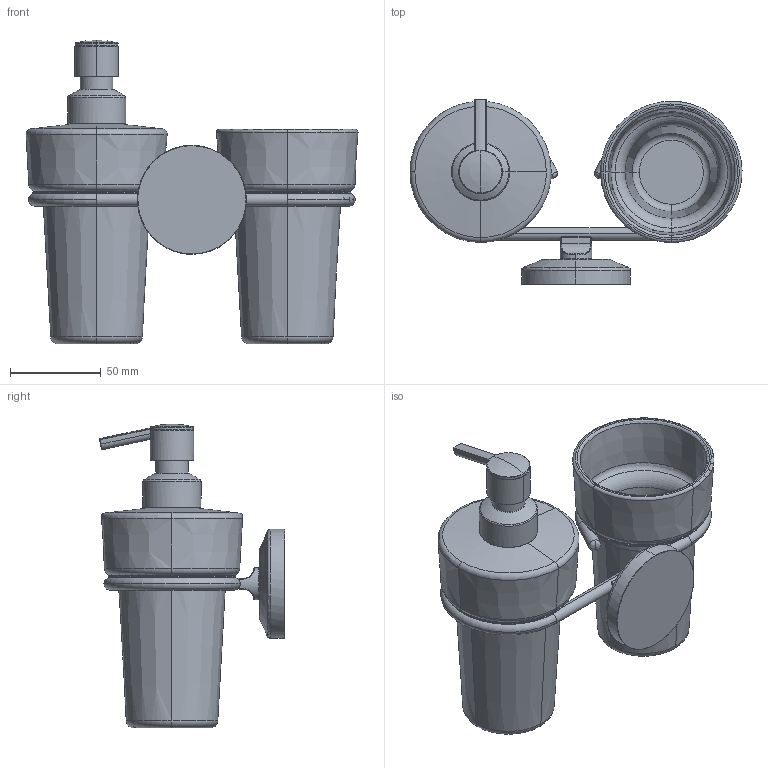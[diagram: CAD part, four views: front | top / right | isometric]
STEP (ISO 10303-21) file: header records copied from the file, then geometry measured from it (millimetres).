
FILE_DESCRIPTION(('THIS FILE CONTAINS SOME STEP INSTANCES'),'1');
FILE_NAME('sta_008.stp','2015-11-27T15:20:43',('UNDEFINED'),('UNDEFINED'),'T-FLEX CAD STEP converter','T-FLEX CAD','');
FILE_SCHEMA(('CONFIG_CONTROL_DESIGN'));
Length unit declared in the file: metre
Products named in the file (6): 3D 鐨飹懤艜_6; 3D 鐨飹懤艜_19; 3D 鐨飹懤艜_8; 3D 鐨飹懤艜_12; 610100-light; 610102
Bounding box: 182.74 x 101.96 x 167.12 mm (x, y, z)
Volume: 280378.5 mm3; surface area: 134968.1 mm2
Topology: 6 solids, 6 shells, 240 faces, 507 edges, 288 vertices
Faces by surface type: torus 72, cone 55, cylinder 52, plane 38, bspline 21, sphere 2
Entity records: 11209 total; most frequent: CARTESIAN_POINT 6823, ORIENTED_EDGE 1010, DIRECTION 752, EDGE_CURVE 505, AXIS2_PLACEMENT_3D 309, VERTEX_POINT 288, EDGE_LOOP 255, ADVANCED_FACE 240
